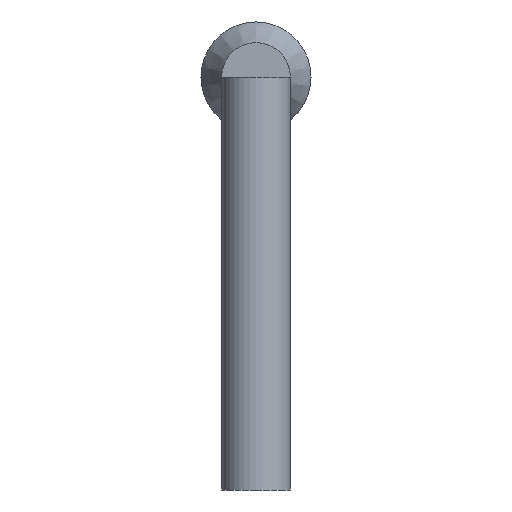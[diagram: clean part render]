
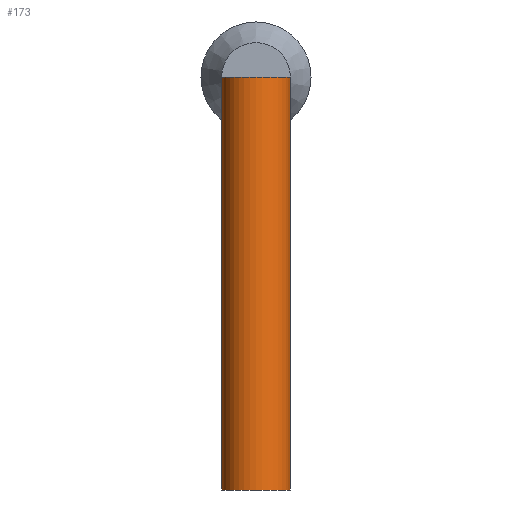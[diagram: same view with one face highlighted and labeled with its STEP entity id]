
A CAD part, left-side view. The second image highlights one B-rep face of the part: STEP entity #173.
In plain terms, the highlighted cylindrical face has radius 0.25 mm (diameter 0.5 mm), a full revolution.
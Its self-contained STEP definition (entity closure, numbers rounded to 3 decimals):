
#173 = ADVANCED_FACE('',(#174),#201,.T.);
#174 = FACE_BOUND('',#175,.T.);
#175 = EDGE_LOOP('',(#176,#185,#193,#200));
#176 = ORIENTED_EDGE('',*,*,#177,.F.);
#177 = EDGE_CURVE('',#178,#178,#180,.T.);
#178 = VERTEX_POINT('',#179);
#179 = CARTESIAN_POINT('',(-4.06,0.,-3.));
#180 = CIRCLE('',#181,0.25);
#181 = AXIS2_PLACEMENT_3D('',#182,#183,#184);
#182 = CARTESIAN_POINT('',(-3.81,0.,-3.));
#183 = DIRECTION('',(0.,0.,-1.));
#184 = DIRECTION('',(-1.,0.,-0.));
#185 = ORIENTED_EDGE('',*,*,#186,.F.);
#186 = EDGE_CURVE('',#187,#178,#189,.T.);
#187 = VERTEX_POINT('',#188);
#188 = CARTESIAN_POINT('',(-4.06,0.,0.));
#189 = LINE('',#190,#191);
#190 = CARTESIAN_POINT('',(-4.06,0.,0.));
#191 = VECTOR('',#192,1.);
#192 = DIRECTION('',(0.,0.,-1.));
#193 = ORIENTED_EDGE('',*,*,#194,.T.);
#194 = EDGE_CURVE('',#187,#187,#195,.T.);
#195 = CIRCLE('',#196,0.25);
#196 = AXIS2_PLACEMENT_3D('',#197,#198,#199);
#197 = CARTESIAN_POINT('',(-3.81,0.,0.));
#198 = DIRECTION('',(0.,0.,-1.));
#199 = DIRECTION('',(-1.,0.,-0.));
#200 = ORIENTED_EDGE('',*,*,#186,.T.);
#201 = CYLINDRICAL_SURFACE('',#202,0.25);
#202 = AXIS2_PLACEMENT_3D('',#203,#204,#205);
#203 = CARTESIAN_POINT('',(-3.81,0.,0.));
#204 = DIRECTION('',(0.,0.,-1.));
#205 = DIRECTION('',(-1.,0.,-0.));
